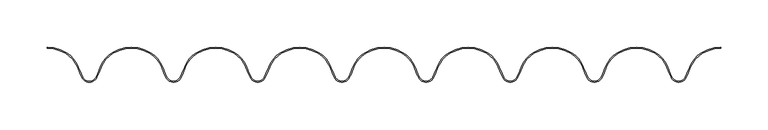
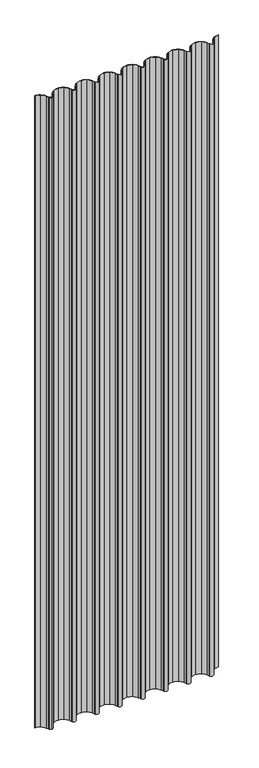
"""IFC4 building model written with IfcOpenShell, lengths in millimetres: plate geometry, Regolare Couverture 712  : Regolare Couverture 712 ."""

from ifc_helpers import new_model, si_unit, point, frame_2d, origin, origin_with_axes, place, context, project, spatial, polyline, circle_curve, trimmed, segment, composite_curve, outline, extrude, source, transform, mapped, element, save


def plate_733e1823(model_context):
    return source(origin(), model_context, "Body", "SweptSolid", [
        extrude(outline(composite_curve([segment(trimmed(circle_curve(frame_2d((-356.2059563, -1.5098563)), 37.4503244), [point((-336.6652062, 30.4383187))], [point((-356.2059563, 35.9404682))], True, "CARTESIAN"), True, "CONTINUOUS"), segment(polyline([(-356.2059563, 35.9404682), (-356.2059563, 36.9404682)]), True, "CONTINUOUS"), segment(trimmed(circle_curve(frame_2d((-356.2059563, -1.5098563)), 38.4503244), [point((-356.2059563, 36.9404682))], [point((-336.1434283, 31.2914001))], False, "CARTESIAN"), True, "CONTINUOUS"), segment(trimmed(circle_curve(frame_2d((-352.6403111, 4.3198001)), 31.6166783), [point((-336.1434283, 31.2914001))], [point((-323.2848269, 16.0616012))], False, "CARTESIAN"), True, "CONTINUOUS"), segment(polyline([(-323.2848269, 16.0616012), (-320.4156051, 8.8980757), (-318.7692514, 5.4633665)]), True, "CONTINUOUS"), segment(trimmed(circle_curve(frame_2d((-311.6802118, 8.8613445)), 7.8613445), [point((-318.7692514, 5.4633665))], [point((-311.6802118, 1.0))], True, "CARTESIAN"), True, "CONTINUOUS"), segment(trimmed(circle_curve(frame_2d((-311.6802118, 8.8613445)), 7.8613445), [point((-311.6802118, 1.0))], [point((-304.5911721, 5.4633665))], True, "CARTESIAN"), True, "CONTINUOUS"), segment(polyline([(-304.5911721, 5.4633665), (-302.9448184, 8.8980757), (-300.0755967, 16.0616012)]), True, "CONTINUOUS"), segment(trimmed(circle_curve(frame_2d((-270.7201125, 4.3198001)), 31.6166783), [point((-300.0755967, 16.0616012))], [point((-287.2169952, 31.2914001))], False, "CARTESIAN"), True, "CONTINUOUS"), segment(trimmed(circle_curve(frame_2d((-267.1544672, -1.5098563)), 38.4503244), [point((-287.2169952, 31.2914001))], [point((-267.1544672, 36.9404682))], False, "CARTESIAN"), True, "CONTINUOUS"), segment(trimmed(circle_curve(frame_2d((-267.1544672, -1.5098563)), 38.4503244), [point((-267.1544672, 36.9404682))], [point((-247.0919392, 31.2914001))], False, "CARTESIAN"), True, "CONTINUOUS"), segment(trimmed(circle_curve(frame_2d((-263.588822, 4.3198001)), 31.6166783), [point((-247.0919392, 31.2914001))], [point((-234.2333378, 16.0616012))], False, "CARTESIAN"), True, "CONTINUOUS"), segment(polyline([(-234.2333378, 16.0616012), (-231.3641161, 8.8980757), (-229.7177623, 5.4633665)]), True, "CONTINUOUS"), segment(trimmed(circle_curve(frame_2d((-222.6287227, 8.8613445)), 7.8613445), [point((-229.7177623, 5.4633665))], [point((-215.5396831, 5.4633665))], True, "CARTESIAN"), True, "CONTINUOUS"), segment(polyline([(-215.5396831, 5.4633665), (-213.8933293, 8.8980757), (-211.0241076, 16.0616012)]), True, "CONTINUOUS"), segment(trimmed(circle_curve(frame_2d((-181.6686234, 4.3198001)), 31.6166783), [point((-211.0241076, 16.0616012))], [point((-198.1655062, 31.2914001))], False, "CARTESIAN"), True, "CONTINUOUS"), segment(trimmed(circle_curve(frame_2d((-178.1029782, -1.5098563)), 38.4503244), [point((-198.1655062, 31.2914001))], [point((-178.1029782, 36.9404682))], False, "CARTESIAN"), True, "CONTINUOUS"), segment(trimmed(circle_curve(frame_2d((-178.1029782, -1.5098563)), 38.4503244), [point((-178.1029782, 36.9404682))], [point((-158.0404502, 31.2914001))], False, "CARTESIAN"), True, "CONTINUOUS"), segment(trimmed(circle_curve(frame_2d((-174.5373329, 4.3198001)), 31.6166783), [point((-158.0404502, 31.2914001))], [point((-145.1818487, 16.0616012))], False, "CARTESIAN"), True, "CONTINUOUS"), segment(polyline([(-145.1818487, 16.0616012), (-142.312627, 8.8980757), (-140.6662733, 5.4633665)]), True, "CONTINUOUS"), segment(trimmed(circle_curve(frame_2d((-133.5772336, 8.8613445)), 7.8613445), [point((-140.6662733, 5.4633665))], [point((-126.488194, 5.4633665))], True, "CARTESIAN"), True, "CONTINUOUS"), segment(polyline([(-126.488194, 5.4633665), (-124.8418403, 8.8980757), (-121.9726185, 16.0616012)]), True, "CONTINUOUS"), segment(trimmed(circle_curve(frame_2d((-92.6171343, 4.3198001)), 31.6166783), [point((-121.9726185, 16.0616012))], [point((-109.1140171, 31.2914001))], False, "CARTESIAN"), True, "CONTINUOUS"), segment(trimmed(circle_curve(frame_2d((-89.0514891, -1.5098563)), 38.4503244), [point((-109.1140171, 31.2914001))], [point((-89.0514891, 36.9404682))], False, "CARTESIAN"), True, "CONTINUOUS"), segment(trimmed(circle_curve(frame_2d((-89.0514891, -1.5098563)), 38.4503244), [point((-89.0514891, 36.9404682))], [point((-68.9889611, 31.2914001))], False, "CARTESIAN"), True, "CONTINUOUS"), segment(trimmed(circle_curve(frame_2d((-85.4858438, 4.3198001)), 31.6166783), [point((-68.9889611, 31.2914001))], [point((-56.1303596, 16.0616012))], False, "CARTESIAN"), True, "CONTINUOUS"), segment(polyline([(-56.1303596, 16.0616012), (-53.2611379, 8.8980757), (-51.6147842, 5.4633665)]), True, "CONTINUOUS"), segment(trimmed(circle_curve(frame_2d((-44.5257445, 8.8613445)), 7.8613445), [point((-51.6147842, 5.4633665))], [point((-37.4367049, 5.4633665))], True, "CARTESIAN"), True, "CONTINUOUS"), segment(polyline([(-37.4367049, 5.4633665), (-35.7903512, 8.8980757), (-32.9211295, 16.0616012)]), True, "CONTINUOUS"), segment(trimmed(circle_curve(frame_2d((-3.5656452, 4.3198001)), 31.6166783), [point((-32.9211295, 16.0616012))], [point((-20.062528, 31.2914001))], False, "CARTESIAN"), True, "CONTINUOUS"), segment(trimmed(circle_curve(frame_2d((0.0, -1.5098563)), 38.4503244), [point((-20.062528, 31.2914001))], [point((0.0, 36.9404682))], False, "CARTESIAN"), True, "CONTINUOUS"), segment(trimmed(circle_curve(frame_2d((0.0, -1.5098563)), 38.4503244), [point((0.0, 36.9404682))], [point((20.062528, 31.2914001))], False, "CARTESIAN"), True, "CONTINUOUS"), segment(trimmed(circle_curve(frame_2d((3.5656452, 4.3198001)), 31.6166783), [point((20.062528, 31.2914001))], [point((32.9211295, 16.0616012))], False, "CARTESIAN"), True, "CONTINUOUS"), segment(polyline([(32.9211295, 16.0616012), (35.7903512, 8.8980757), (37.4367049, 5.4633665)]), True, "CONTINUOUS"), segment(trimmed(circle_curve(frame_2d((44.5257445, 8.8613445)), 7.8613445), [point((37.4367049, 5.4633665))], [point((51.6147842, 5.4633665))], True, "CARTESIAN"), True, "CONTINUOUS"), segment(polyline([(51.6147842, 5.4633665), (53.2611379, 8.8980757), (56.1303596, 16.0616012)]), True, "CONTINUOUS"), segment(trimmed(circle_curve(frame_2d((85.4858438, 4.3198001)), 31.6166783), [point((56.1303596, 16.0616012))], [point((68.9889611, 31.2914001))], False, "CARTESIAN"), True, "CONTINUOUS"), segment(trimmed(circle_curve(frame_2d((89.0514891, -1.5098563)), 38.4503244), [point((68.9889611, 31.2914001))], [point((89.0514891, 36.9404682))], False, "CARTESIAN"), True, "CONTINUOUS"), segment(trimmed(circle_curve(frame_2d((89.0514891, -1.5098563)), 38.4503244), [point((89.0514891, 36.9404682))], [point((109.1140171, 31.2914001))], False, "CARTESIAN"), True, "CONTINUOUS"), segment(trimmed(circle_curve(frame_2d((92.6171343, 4.3198001)), 31.6166783), [point((109.1140171, 31.2914001))], [point((121.9726185, 16.0616012))], False, "CARTESIAN"), True, "CONTINUOUS"), segment(polyline([(121.9726185, 16.0616012), (124.8418403, 8.8980757), (126.488194, 5.4633665)]), True, "CONTINUOUS"), segment(trimmed(circle_curve(frame_2d((133.5772336, 8.8613445)), 7.8613445), [point((126.488194, 5.4633665))], [point((140.6662733, 5.4633665))], True, "CARTESIAN"), True, "CONTINUOUS"), segment(polyline([(140.6662733, 5.4633665), (142.312627, 8.8980757), (145.1818487, 16.0616012)]), True, "CONTINUOUS"), segment(trimmed(circle_curve(frame_2d((174.5373329, 4.3198001)), 31.6166783), [point((145.1818487, 16.0616012))], [point((158.0404502, 31.2914001))], False, "CARTESIAN"), True, "CONTINUOUS"), segment(trimmed(circle_curve(frame_2d((178.1029782, -1.5098563)), 38.4503244), [point((158.0404502, 31.2914001))], [point((178.1029782, 36.9404682))], False, "CARTESIAN"), True, "CONTINUOUS"), segment(trimmed(circle_curve(frame_2d((178.1029782, -1.5098563)), 38.4503244), [point((178.1029782, 36.9404682))], [point((198.1655062, 31.2914001))], False, "CARTESIAN"), True, "CONTINUOUS"), segment(trimmed(circle_curve(frame_2d((181.6686234, 4.3198001)), 31.6166783), [point((198.1655062, 31.2914001))], [point((211.0241076, 16.0616012))], False, "CARTESIAN"), True, "CONTINUOUS"), segment(polyline([(211.0241076, 16.0616012), (213.8933293, 8.8980757), (215.5396831, 5.4633665)]), True, "CONTINUOUS"), segment(trimmed(circle_curve(frame_2d((222.6287227, 8.8613445)), 7.8613445), [point((215.5396831, 5.4633665))], [point((229.7177623, 5.4633665))], True, "CARTESIAN"), True, "CONTINUOUS"), segment(polyline([(229.7177623, 5.4633665), (231.3641161, 8.8980757), (234.2333378, 16.0616012)]), True, "CONTINUOUS"), segment(trimmed(circle_curve(frame_2d((263.588822, 4.3198001)), 31.6166783), [point((234.2333378, 16.0616012))], [point((247.0919392, 31.2914001))], False, "CARTESIAN"), True, "CONTINUOUS"), segment(trimmed(circle_curve(frame_2d((267.1544672, -1.5098563)), 38.4503244), [point((247.0919392, 31.2914001))], [point((267.1544672, 36.9404682))], False, "CARTESIAN"), True, "CONTINUOUS"), segment(trimmed(circle_curve(frame_2d((267.1544672, -1.5098563)), 38.4503244), [point((267.1544672, 36.9404682))], [point((287.2169952, 31.2914001))], False, "CARTESIAN"), True, "CONTINUOUS"), segment(trimmed(circle_curve(frame_2d((270.7201125, 4.3198001)), 31.6166783), [point((287.2169952, 31.2914001))], [point((300.0755967, 16.0616012))], False, "CARTESIAN"), True, "CONTINUOUS"), segment(polyline([(300.0755967, 16.0616012), (302.9448184, 8.8980757), (304.5911721, 5.4633665)]), True, "CONTINUOUS"), segment(trimmed(circle_curve(frame_2d((311.6802118, 8.8613445)), 7.8613445), [point((304.5911721, 5.4633665))], [point((318.7692514, 5.4633665))], True, "CARTESIAN"), True, "CONTINUOUS"), segment(polyline([(318.7692514, 5.4633665), (320.4156051, 8.8980757), (323.2848269, 16.0616012)]), True, "CONTINUOUS"), segment(trimmed(circle_curve(frame_2d((352.6403111, 4.3198001)), 31.6166783), [point((323.2848269, 16.0616012))], [point((336.1434283, 31.2914001))], False, "CARTESIAN"), True, "CONTINUOUS"), segment(trimmed(circle_curve(frame_2d((356.2059563, -1.5098563)), 38.4503244), [point((336.1434283, 31.2914001))], [point((356.2059563, 36.9404682))], False, "CARTESIAN"), True, "CONTINUOUS"), segment(polyline([(356.2059563, 36.9404682), (356.2059563, 35.9404682)]), True, "CONTINUOUS"), segment(trimmed(circle_curve(frame_2d((356.2059563, -1.5098563)), 37.4503244), [point((356.2059563, 35.9404682))], [point((336.6652062, 30.4383187))], True, "CARTESIAN"), True, "CONTINUOUS"), segment(trimmed(circle_curve(frame_2d((352.6403111, 4.3198001)), 30.6166783), [point((336.6652062, 30.4383187))], [point((324.2132212, 15.6900047))], True, "CARTESIAN"), True, "CONTINUOUS"), segment(polyline([(324.2132212, 15.6900047), (321.3316353, 8.4956098), (319.6710106, 5.0311277)]), True, "CONTINUOUS"), segment(trimmed(circle_curve(frame_2d((311.6802118, 8.8613445)), 8.8613445), [point((319.6710106, 5.0311277))], [point((303.689413, 5.0311277))], False, "CARTESIAN"), True, "CONTINUOUS"), segment(polyline([(303.689413, 5.0311277), (302.0287882, 8.4956098), (299.1472023, 15.6900047)]), True, "CONTINUOUS"), segment(trimmed(circle_curve(frame_2d((270.7201125, 4.3198001)), 30.6166783), [point((299.1472023, 15.6900047))], [point((286.6952174, 30.4383187))], True, "CARTESIAN"), True, "CONTINUOUS"), segment(trimmed(circle_curve(frame_2d((267.1544672, -1.5098563)), 37.4503244), [point((286.6952174, 30.4383187))], [point((267.1544672, 35.9404682))], True, "CARTESIAN"), True, "CONTINUOUS"), segment(trimmed(circle_curve(frame_2d((267.1544672, -1.5098563)), 37.4503244), [point((267.1544672, 35.9404682))], [point((247.6137171, 30.4383187))], True, "CARTESIAN"), True, "CONTINUOUS"), segment(trimmed(circle_curve(frame_2d((263.588822, 4.3198001)), 30.6166783), [point((247.6137171, 30.4383187))], [point((235.1617322, 15.6900047))], True, "CARTESIAN"), True, "CONTINUOUS"), segment(polyline([(235.1617322, 15.6900047), (232.2801463, 8.4956098), (230.6195215, 5.0311277)]), True, "CONTINUOUS"), segment(trimmed(circle_curve(frame_2d((222.6287227, 8.8613445)), 8.8613445), [point((230.6195215, 5.0311277))], [point((214.6379239, 5.0311277))], False, "CARTESIAN"), True, "CONTINUOUS"), segment(polyline([(214.6379239, 5.0311277), (212.9772992, 8.4956098), (210.0957133, 15.6900047)]), True, "CONTINUOUS"), segment(trimmed(circle_curve(frame_2d((181.6686234, 4.3198001)), 30.6166783), [point((210.0957133, 15.6900047))], [point((197.6437283, 30.4383187))], True, "CARTESIAN"), True, "CONTINUOUS"), segment(trimmed(circle_curve(frame_2d((178.1029782, -1.5098563)), 37.4503244), [point((197.6437283, 30.4383187))], [point((178.1029782, 35.9404682))], True, "CARTESIAN"), True, "CONTINUOUS"), segment(trimmed(circle_curve(frame_2d((178.1029782, -1.5098563)), 37.4503244), [point((178.1029782, 35.9404682))], [point((158.562228, 30.4383187))], True, "CARTESIAN"), True, "CONTINUOUS"), segment(trimmed(circle_curve(frame_2d((174.5373329, 4.3198001)), 30.6166783), [point((158.562228, 30.4383187))], [point((146.1102431, 15.6900047))], True, "CARTESIAN"), True, "CONTINUOUS"), segment(polyline([(146.1102431, 15.6900047), (143.2286572, 8.4956098), (141.5680324, 5.0311277)]), True, "CONTINUOUS"), segment(trimmed(circle_curve(frame_2d((133.5772336, 8.8613445)), 8.8613445), [point((141.5680324, 5.0311277))], [point((125.5864348, 5.0311277))], False, "CARTESIAN"), True, "CONTINUOUS"), segment(polyline([(125.5864348, 5.0311277), (123.9258101, 8.4956098), (121.0442242, 15.6900047)]), True, "CONTINUOUS"), segment(trimmed(circle_curve(frame_2d((92.6171343, 4.3198001)), 30.6166783), [point((121.0442242, 15.6900047))], [point((108.5922392, 30.4383187))], True, "CARTESIAN"), True, "CONTINUOUS"), segment(trimmed(circle_curve(frame_2d((89.0514891, -1.5098563)), 37.4503244), [point((108.5922392, 30.4383187))], [point((89.0514891, 35.9404682))], True, "CARTESIAN"), True, "CONTINUOUS"), segment(trimmed(circle_curve(frame_2d((89.0514891, -1.5098563)), 37.4503244), [point((89.0514891, 35.9404682))], [point((69.5107389, 30.4383187))], True, "CARTESIAN"), True, "CONTINUOUS"), segment(trimmed(circle_curve(frame_2d((85.4858438, 4.3198001)), 30.6166783), [point((69.5107389, 30.4383187))], [point((57.058754, 15.6900047))], True, "CARTESIAN"), True, "CONTINUOUS"), segment(polyline([(57.058754, 15.6900047), (54.1771681, 8.4956098), (52.5165434, 5.0311277)]), True, "CONTINUOUS"), segment(trimmed(circle_curve(frame_2d((44.5257445, 8.8613445)), 8.8613445), [point((52.5165434, 5.0311277))], [point((36.5349457, 5.0311277))], False, "CARTESIAN"), True, "CONTINUOUS"), segment(polyline([(36.5349457, 5.0311277), (34.874321, 8.4956098), (31.9927351, 15.6900047)]), True, "CONTINUOUS"), segment(trimmed(circle_curve(frame_2d((3.5656452, 4.3198001)), 30.6166783), [point((31.9927351, 15.6900047))], [point((19.5407501, 30.4383187))], True, "CARTESIAN"), True, "CONTINUOUS"), segment(trimmed(circle_curve(frame_2d((0.0, -1.5098563)), 37.4503244), [point((19.5407501, 30.4383187))], [point((0.0, 35.9404682))], True, "CARTESIAN"), True, "CONTINUOUS"), segment(trimmed(circle_curve(frame_2d((0.0, -1.5098563)), 37.4503244), [point((0.0, 35.9404682))], [point((-19.5407501, 30.4383187))], True, "CARTESIAN"), True, "CONTINUOUS"), segment(trimmed(circle_curve(frame_2d((-3.5656452, 4.3198001)), 30.6166783), [point((-19.5407501, 30.4383187))], [point((-31.9927351, 15.6900047))], True, "CARTESIAN"), True, "CONTINUOUS"), segment(polyline([(-31.9927351, 15.6900047), (-34.874321, 8.4956098), (-36.5349457, 5.0311277)]), True, "CONTINUOUS"), segment(trimmed(circle_curve(frame_2d((-44.5257445, 8.8613445)), 8.8613445), [point((-36.5349457, 5.0311277))], [point((-52.5165434, 5.0311277))], False, "CARTESIAN"), True, "CONTINUOUS"), segment(polyline([(-52.5165434, 5.0311277), (-54.1771681, 8.4956098), (-57.058754, 15.6900047)]), True, "CONTINUOUS"), segment(trimmed(circle_curve(frame_2d((-85.4858438, 4.3198001)), 30.6166783), [point((-57.058754, 15.6900047))], [point((-69.5107389, 30.4383187))], True, "CARTESIAN"), True, "CONTINUOUS"), segment(trimmed(circle_curve(frame_2d((-89.0514891, -1.5098563)), 37.4503244), [point((-69.5107389, 30.4383187))], [point((-89.0514891, 35.9404682))], True, "CARTESIAN"), True, "CONTINUOUS"), segment(trimmed(circle_curve(frame_2d((-89.0514891, -1.5098563)), 37.4503244), [point((-89.0514891, 35.9404682))], [point((-108.5922392, 30.4383187))], True, "CARTESIAN"), True, "CONTINUOUS"), segment(trimmed(circle_curve(frame_2d((-92.6171343, 4.3198001)), 30.6166783), [point((-108.5922392, 30.4383187))], [point((-121.0442242, 15.6900047))], True, "CARTESIAN"), True, "CONTINUOUS"), segment(polyline([(-121.0442242, 15.6900047), (-123.9258101, 8.4956098), (-125.5864348, 5.0311277)]), True, "CONTINUOUS"), segment(trimmed(circle_curve(frame_2d((-133.5772336, 8.8613445)), 8.8613445), [point((-125.5864348, 5.0311277))], [point((-141.5680324, 5.0311277))], False, "CARTESIAN"), True, "CONTINUOUS"), segment(polyline([(-141.5680324, 5.0311277), (-143.2286572, 8.4956098), (-146.1102431, 15.6900047)]), True, "CONTINUOUS"), segment(trimmed(circle_curve(frame_2d((-174.5373329, 4.3198001)), 30.6166783), [point((-146.1102431, 15.6900047))], [point((-158.562228, 30.4383187))], True, "CARTESIAN"), True, "CONTINUOUS"), segment(trimmed(circle_curve(frame_2d((-178.1029782, -1.5098563)), 37.4503244), [point((-158.562228, 30.4383187))], [point((-178.1029782, 35.9404682))], True, "CARTESIAN"), True, "CONTINUOUS"), segment(trimmed(circle_curve(frame_2d((-178.1029782, -1.5098563)), 37.4503244), [point((-178.1029782, 35.9404682))], [point((-197.6437283, 30.4383187))], True, "CARTESIAN"), True, "CONTINUOUS"), segment(trimmed(circle_curve(frame_2d((-181.6686234, 4.3198001)), 30.6166783), [point((-197.6437283, 30.4383187))], [point((-210.0957133, 15.6900047))], True, "CARTESIAN"), True, "CONTINUOUS"), segment(polyline([(-210.0957133, 15.6900047), (-212.9772992, 8.4956098), (-214.6379239, 5.0311277)]), True, "CONTINUOUS"), segment(trimmed(circle_curve(frame_2d((-222.6287227, 8.8613445)), 8.8613445), [point((-214.6379239, 5.0311277))], [point((-230.6195215, 5.0311277))], False, "CARTESIAN"), True, "CONTINUOUS"), segment(polyline([(-230.6195215, 5.0311277), (-232.2801463, 8.4956098), (-235.1617322, 15.6900047)]), True, "CONTINUOUS"), segment(trimmed(circle_curve(frame_2d((-263.588822, 4.3198001)), 30.6166783), [point((-235.1617322, 15.6900047))], [point((-247.6137171, 30.4383187))], True, "CARTESIAN"), True, "CONTINUOUS"), segment(trimmed(circle_curve(frame_2d((-267.1544672, -1.5098563)), 37.4503244), [point((-247.6137171, 30.4383187))], [point((-267.1544672, 35.9404682))], True, "CARTESIAN"), True, "CONTINUOUS"), segment(trimmed(circle_curve(frame_2d((-267.1544672, -1.5098563)), 37.4503244), [point((-267.1544672, 35.9404682))], [point((-286.6952174, 30.4383187))], True, "CARTESIAN"), True, "CONTINUOUS"), segment(trimmed(circle_curve(frame_2d((-270.7201125, 4.3198001)), 30.6166783), [point((-286.6952174, 30.4383187))], [point((-299.1472023, 15.6900047))], True, "CARTESIAN"), True, "CONTINUOUS"), segment(polyline([(-299.1472023, 15.6900047), (-302.0287882, 8.4956098), (-303.689413, 5.0311277)]), True, "CONTINUOUS"), segment(trimmed(circle_curve(frame_2d((-311.6802118, 8.8613445)), 8.8613445), [point((-303.689413, 5.0311277))], [point((-311.6802118, 0.0))], False, "CARTESIAN"), True, "CONTINUOUS"), segment(trimmed(circle_curve(frame_2d((-311.6802118, 8.8613445)), 8.8613445), [point((-311.6802118, 0.0))], [point((-319.6710106, 5.0311277))], False, "CARTESIAN"), True, "CONTINUOUS"), segment(polyline([(-319.6710106, 5.0311277), (-321.3316353, 8.4956098), (-324.2132212, 15.6900047)]), True, "CONTINUOUS"), segment(trimmed(circle_curve(frame_2d((-352.6403111, 4.3198001)), 30.6166783), [point((-324.2132212, 15.6900047))], [point((-336.6652062, 30.4383187))], True, "CARTESIAN"), True, "CONTINUOUS")], self_intersect=False)), origin_with_axes(), (0.0, 0.0, 1.0), 2588.190451),
    ])


if __name__ == "__main__":
    model = new_model("IFC4")
    model_context = context("Model", 3, world=origin())
    ifc_project = project(units=[si_unit("LENGTHUNIT", "METRE", prefix="MILLI")], contexts=[model_context])
    site = spatial("IfcSite", under=ifc_project)
    building = spatial("IfcBuilding", under=site)
    placement = place(None, origin())
    plate_shape = plate_733e1823(model_context)
    element("IfcPlate", 1, ObjectType="Regolare Couverture 712  : Regolare Couverture 712 ", at=placement, inside=building, context=model_context, shape_type="MappedRepresentation", body=[
        mapped(plate_shape, transform((0.0, 0.0, 0.0), x_axis=(1.0, 0.0, 0.0), y_axis=(0.0, 1.0, 0.0), z_axis=(0.0, 0.0, 1.0))),
    ])
    save(model, "model.ifc")
